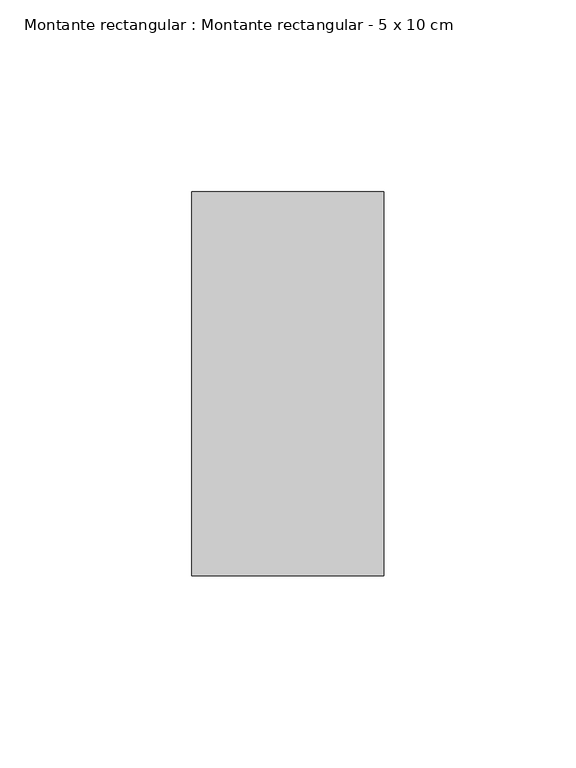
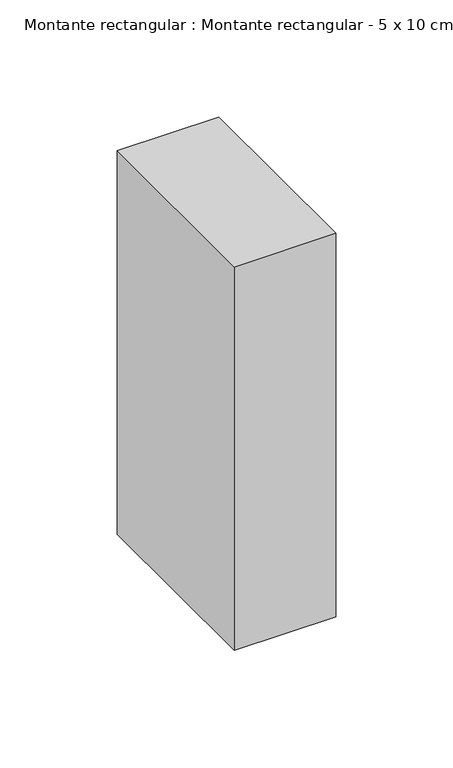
"""IFC4 building model written with IfcOpenShell, lengths in millimetres: member geometry, Montante rectangular : Montante rectangular - 5 x 10 cm."""

from ifc_helpers import new_model, si_unit, frame, origin, place, context, project, spatial, polyline, outline, extrude, source, transform, mapped, element, save


def montante_rectangular_montante_rectangular_5_x_10_cm_a897db86(model_context):
    return source(origin(), model_context, "Body", "SweptSolid", [
        extrude(outline(polyline([(0.0, 50.0), (0.0, -50.0), (-50.0, -50.0), (-50.0, 50.0), (0.0, 50.0)])), frame((0.0, 0.0, -200.0), z_axis=(0.0, 0.0, 1.0), x_axis=(1.0, 0.0, 0.0)), (0.0, 0.0, 1.0), 200.0),
    ])


if __name__ == "__main__":
    model = new_model("IFC4")
    model_context = context("Model", 3, world=origin())
    ifc_project = project(units=[si_unit("LENGTHUNIT", "METRE", prefix="MILLI")], contexts=[model_context])
    site = spatial("IfcSite", under=ifc_project)
    building = spatial("IfcBuilding", under=site)
    placement = place(None, origin())
    montante_rectangular_montante_rectangular_5_x_10_cm_shape = montante_rectangular_montante_rectangular_5_x_10_cm_a897db86(model_context)
    element("IfcMember", 1, ObjectType="Montante rectangular : Montante rectangular - 5 x 10 cm", at=placement, inside=building, context=model_context, shape_type="MappedRepresentation", body=[
        mapped(montante_rectangular_montante_rectangular_5_x_10_cm_shape, transform((0.0, 0.0, 0.0), x_axis=(1.0, 0.0, 0.0), y_axis=(0.0, 1.0, 0.0), z_axis=(0.0, 0.0, 1.0))),
    ])
    save(model, "model.ifc")
